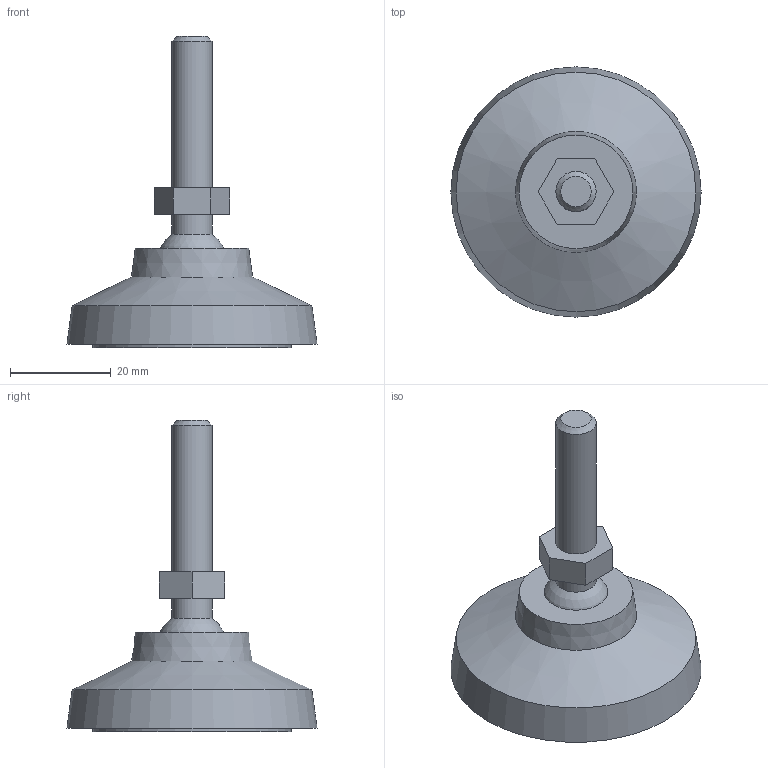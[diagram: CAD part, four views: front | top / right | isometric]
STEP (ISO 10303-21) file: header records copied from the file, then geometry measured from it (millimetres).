
FILE_DESCRIPTION( ('This file contains a STEP AP42 implementation' ,'as created by ZW3D STEP Interface translator.') ,'2;1' );
FILE_NAME( 'Stopa wahliwa D50.stp' ,'26 820. 94423', (''), ('ZWCAD Software Co.'), 'Version 1.0', 'ZW3D to STEP translator', '' );
FILE_SCHEMA(('AP242_MANAGED_MODEL_BASED_3D_ENGINEERING_MIM_LF { 1 0 10303 442 1 1 4 }'));
Length unit declared in the file: millimetre
Products named in the file (1): 0
Bounding box: 49.6 x 49.6 x 61.7 mm (x, y, z)
Volume: 23975.5 mm3; surface area: 12666 mm2
Topology: 3 solids, 3 shells, 53 faces, 125 edges, 82 vertices
Faces by surface type: plane 34, cone 11, cylinder 6, sphere 2
Full cylindrical faces by diameter (mm): 7 x1, 8 x2, 18 x1, 39.4 x2
Entity records: 1568 total; most frequent: CARTESIAN_POINT 307, DIRECTION 253, ORIENTED_EDGE 246, EDGE_CURVE 123, AXIS2_PLACEMENT_3D 100, VERTEX_POINT 82, EDGE_LOOP 59, FACE_OUTER_BOUND 53
